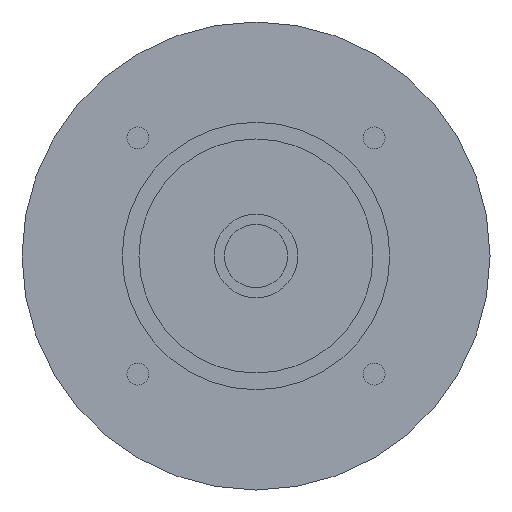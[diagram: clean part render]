
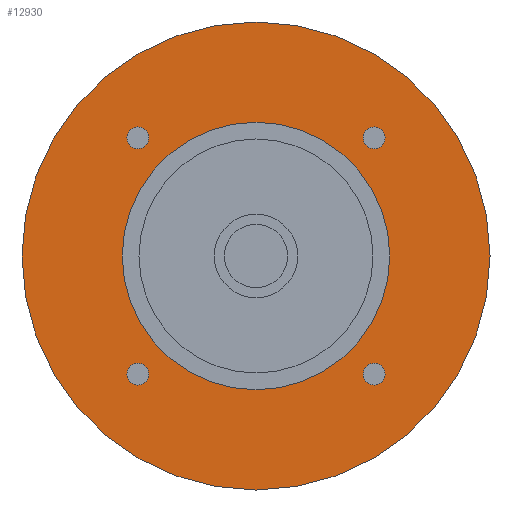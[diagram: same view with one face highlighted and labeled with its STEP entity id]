
A CAD part, left-side view. The second image highlights one B-rep face of the part: STEP entity #12930.
In plain terms, the highlighted planar face has unit normal (-1, 0, 0) as drawn and (0, 0, -1) by its records, which use the part's own axes.
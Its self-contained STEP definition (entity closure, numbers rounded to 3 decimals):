
#11810=CARTESIAN_POINT('',(70.,0.,-59.701));
#11820=VERTEX_POINT('',#11810);
#11850=CARTESIAN_POINT('',(0.,0.,
-59.701));
#11860=DIRECTION('',(0.,0.,-1.));
#11870=DIRECTION('',(-1.,0.,0.));
#11880=AXIS2_PLACEMENT_3D('',#11850,#11860,#11870);
#11890=CIRCLE('',#11880,70.);
#11900=CARTESIAN_POINT('',(-70.,0.,-59.701));
#11910=VERTEX_POINT('',#11900);
#11920=EDGE_CURVE('',#11820,#11910,#11890,.T.);
#12040=CARTESIAN_POINT('',(0.,0.,
-59.701));
#12050=DIRECTION('',(0.,0.,-1.));
#12060=DIRECTION('',(1.,0.,0.));
#12070=AXIS2_PLACEMENT_3D('',#12040,#12050,#12060);
#12080=PLANE('',#12070);
#12090=CARTESIAN_POINT('',(35.355,-35.355,-59.701));
#12100=DIRECTION('',(0.,0.,-1.));
#12110=DIRECTION('',(1.,0.,0.));
#12120=AXIS2_PLACEMENT_3D('',#12090,#12100,#12110);
#12130=CIRCLE('',#12120,3.25);
#12140=CARTESIAN_POINT('',(38.605,-35.355,-59.701));
#12150=VERTEX_POINT('',#12140);
#12160=CARTESIAN_POINT('',(32.105,-35.355,-59.701));
#12170=VERTEX_POINT('',#12160);
#12180=EDGE_CURVE('',#12150,#12170,#12130,.T.);
#12190=ORIENTED_EDGE('',*,*,#12180,.F.);
#12200=EDGE_CURVE('',#12170,#12150,#12130,.T.);
#12210=ORIENTED_EDGE('',*,*,#12200,.F.);
#12220=EDGE_LOOP('',(#12210,#12190));
#12230=FACE_BOUND('',#12220,.T.);
#12240=CARTESIAN_POINT('',(35.355,35.355,-59.701));
#12250=DIRECTION('',(0.,0.,-1.));
#12260=DIRECTION('',(0.,1.,0.));
#12270=AXIS2_PLACEMENT_3D('',#12240,#12250,#12260);
#12280=CIRCLE('',#12270,3.25);
#12290=CARTESIAN_POINT('',(35.355,38.605,-59.701));
#12300=VERTEX_POINT('',#12290);
#12310=CARTESIAN_POINT('',(35.355,32.105,-59.701));
#12320=VERTEX_POINT('',#12310);
#12330=EDGE_CURVE('',#12300,#12320,#12280,.T.);
#12340=ORIENTED_EDGE('',*,*,#12330,.F.);
#12350=EDGE_CURVE('',#12320,#12300,#12280,.T.);
#12360=ORIENTED_EDGE('',*,*,#12350,.F.);
#12370=EDGE_LOOP('',(#12360,#12340));
#12380=FACE_BOUND('',#12370,.T.);
#12390=CARTESIAN_POINT('',(-35.355,35.355,-59.701));
#12400=DIRECTION('',(0.,0.,-1.));
#12410=DIRECTION('',(-1.,0.,0.));
#12420=AXIS2_PLACEMENT_3D('',#12390,#12400,#12410);
#12430=CIRCLE('',#12420,3.25);
#12440=CARTESIAN_POINT('',(-38.605,35.355,-59.701));
#12450=VERTEX_POINT('',#12440);
#12460=CARTESIAN_POINT('',(-32.105,35.355,-59.701));
#12470=VERTEX_POINT('',#12460);
#12480=EDGE_CURVE('',#12450,#12470,#12430,.T.);
#12490=ORIENTED_EDGE('',*,*,#12480,.F.);
#12500=EDGE_CURVE('',#12470,#12450,#12430,.T.);
#12510=ORIENTED_EDGE('',*,*,#12500,.F.);
#12520=EDGE_LOOP('',(#12510,#12490));
#12530=FACE_BOUND('',#12520,.T.);
#12540=CARTESIAN_POINT('',(-35.355,-35.355,-59.701))
;
#12550=DIRECTION('',(0.,0.,-1.));
#12560=DIRECTION('',(0.,-1.,0.));
#12570=AXIS2_PLACEMENT_3D('',#12540,#12550,#12560);
#12580=CIRCLE('',#12570,3.25);
#12590=CARTESIAN_POINT('',(-35.355,-38.605,-59.701))
;
#12600=VERTEX_POINT('',#12590);
#12610=CARTESIAN_POINT('',(-35.355,-32.105,-59.701))
;
#12620=VERTEX_POINT('',#12610);
#12630=EDGE_CURVE('',#12600,#12620,#12580,.T.);
#12640=ORIENTED_EDGE('',*,*,#12630,.F.);
#12650=EDGE_CURVE('',#12620,#12600,#12580,.T.);
#12660=ORIENTED_EDGE('',*,*,#12650,.F.);
#12670=EDGE_LOOP('',(#12660,#12640));
#12680=FACE_BOUND('',#12670,.T.);
#12690=CARTESIAN_POINT('',(0.,0.,
-59.701));
#12700=DIRECTION('',(0.,0.,1.));
#12710=DIRECTION('',(0.,1.,0.));
#12720=AXIS2_PLACEMENT_3D('',#12690,#12700,#12710);
#12730=CIRCLE('',#12720,40.);
#12740=CARTESIAN_POINT('',(-40.,0.,-59.701));
#12750=VERTEX_POINT('',#12740);
#12760=CARTESIAN_POINT('',(40.,0.,-59.701));
#12770=VERTEX_POINT('',#12760);
#12780=EDGE_CURVE('',#12750,#12770,#12730,.T.);
#12790=ORIENTED_EDGE('',*,*,#12780,.T.);
#12800=CARTESIAN_POINT('',(0.,40.,-59.701));
#12810=VERTEX_POINT('',#12800);
#12820=EDGE_CURVE('',#12810,#12750,#12730,.T.);
#12830=ORIENTED_EDGE('',*,*,#12820,.T.);
#12840=EDGE_CURVE('',#12770,#12810,#12730,.T.);
#12850=ORIENTED_EDGE('',*,*,#12840,.T.);
#12860=EDGE_LOOP('',(#12850,#12830,#12790));
#12870=FACE_BOUND('',#12860,.T.);
#12880=EDGE_CURVE('',#11910,#11820,#11890,.T.);
#12890=ORIENTED_EDGE('',*,*,#12880,.T.);
#12900=ORIENTED_EDGE('',*,*,#11920,.T.);
#12910=EDGE_LOOP('',(#12900,#12890));
#12920=FACE_OUTER_BOUND('',#12910,.T.);
#12930=ADVANCED_FACE('',(#12230,#12380,#12530,#12680,#12870,#12920),
#12080,.T.);
